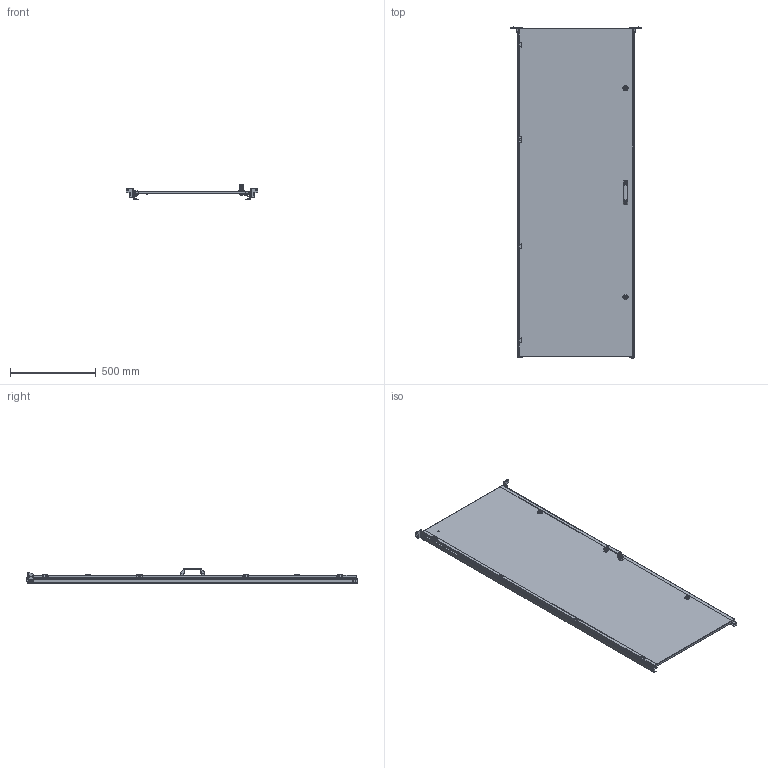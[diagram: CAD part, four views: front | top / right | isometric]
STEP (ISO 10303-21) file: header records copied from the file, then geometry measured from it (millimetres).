
FILE_DESCRIPTION (( 'STEP AP203' ), '1' );
FILE_NAME ('ID 200.80 ﾑﾁ ﾄ粢 粹澵.STEP', '2025-01-23T11:58:44', ( '' ), ( '' ), 'SwSTEP 2.0', 'SolidWorks 2022', '' );
FILE_SCHEMA (( 'CONFIG_CONTROL_DESIGN' ));
Length unit declared in the file: millimetre
Products named in the file (5): MP 01.001 Держатель монтажной панели верхний_По умолчаниюSM-FLAT-PATTERN; ID 180.80 Дверь внутренняя_ID 200.80 Дверь внутренняя; MP 01.001-01 Держатель монтажной панели верхний; Винт специальный самонарезающий оц. 4,8x11_Винт специальный самонарезающий оц. 4,8x11; ID 200.80 СБ Дверь внутренняя
Assembly tree (7 placements, depth 2):
  ID 200.80 СБ Дверь внутренняя
    ID 180.80 Дверь внутренняя_ID 200.80 Дверь внутренняя
    MP 01.001 Держатель монтажной панели верхний_По умолчаниюSM-FLAT-PATTERN
    MP 01.001-01 Держатель монтажной панели верхний
    Винт специальный самонарезающий оц. 4,8x11_Винт специальный самонарезающий оц. 4,8x11  x4
Bounding box: 770 x 1939.1 x 88.74 mm (x, y, z)
Volume: 2638856.6 mm3; surface area: 3443497.7 mm2
Topology: 40 solids, 40 shells, 1940 faces, 5026 edges, 3176 vertices
Faces by surface type: plane 886, cylinder 566, cone 262, bspline 108, sphere 88, torus 30
Entity records: 57874 total; most frequent: CARTESIAN_POINT 14827, ORIENTED_EDGE 9126, DIRECTION 8636, EDGE_CURVE 4563, AXIS2_PLACEMENT_3D 3153, VERTEX_POINT 2888, LINE 2330, VECTOR 2330
